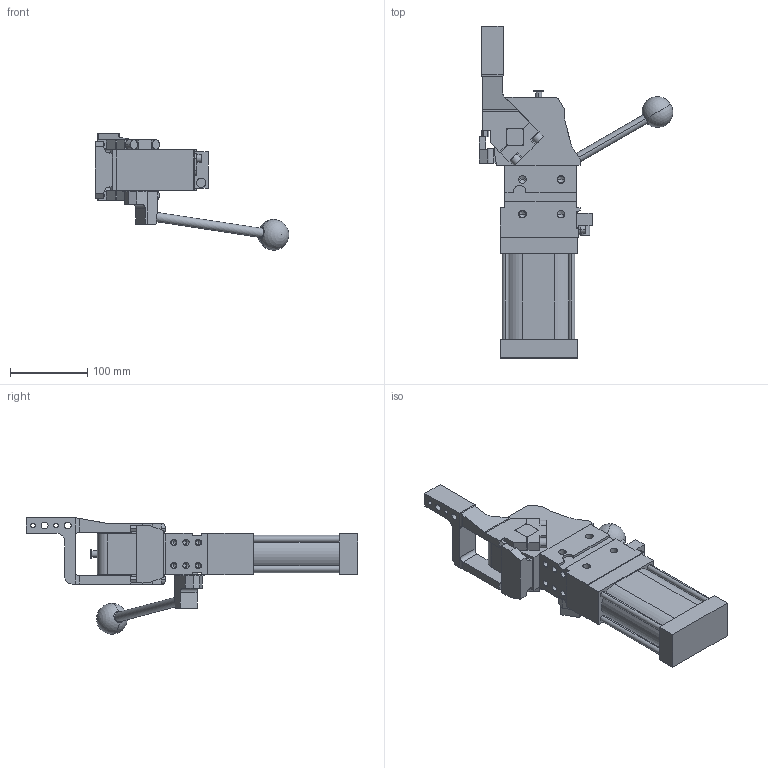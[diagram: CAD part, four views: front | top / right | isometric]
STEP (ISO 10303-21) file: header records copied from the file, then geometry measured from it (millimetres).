
FILE_DESCRIPTION (( 'STEP AP214' ), '1' );
FILE_NAME ('cplm63lbth1si1g_107.STEP', '2023-01-26T14:47:02', ( '' ), ( '' ), 'SwSTEP 2.0', 'SolidWorks 2022', '' );
FILE_SCHEMA (( 'AUTOMOTIVE_DESIGN' ));
Length unit declared in the file: millimetre
Products named in the file (5): blocchetto_VEP_0; leva_h1s_cpl63t; cplm63lbth1si1g_107; comando_manuale_cplm_63; meccanica_cplm_63_tassello_esterno
Assembly tree (4 placements, depth 2):
  cplm63lbth1si1g_107
    meccanica_cplm_63_tassello_esterno
    blocchetto_VEP_0
    leva_h1s_cpl63t
    comando_manuale_cplm_63
Bounding box: 250.96 x 430.5 x 151 mm (x, y, z)
Volume: 1896969.8 mm3; surface area: 213461.2 mm2
Topology: 4 solids, 4 shells, 463 faces, 1223 edges, 761 vertices
Faces by surface type: plane 250, cylinder 161, cone 50, sphere 2
Entity records: 15564 total; most frequent: CARTESIAN_POINT 2500, DIRECTION 2454, ORIENTED_EDGE 2344, EDGE_CURVE 1172, AXIS2_PLACEMENT_3D 826, VECTOR 802, LINE 802, VERTEX_POINT 758
